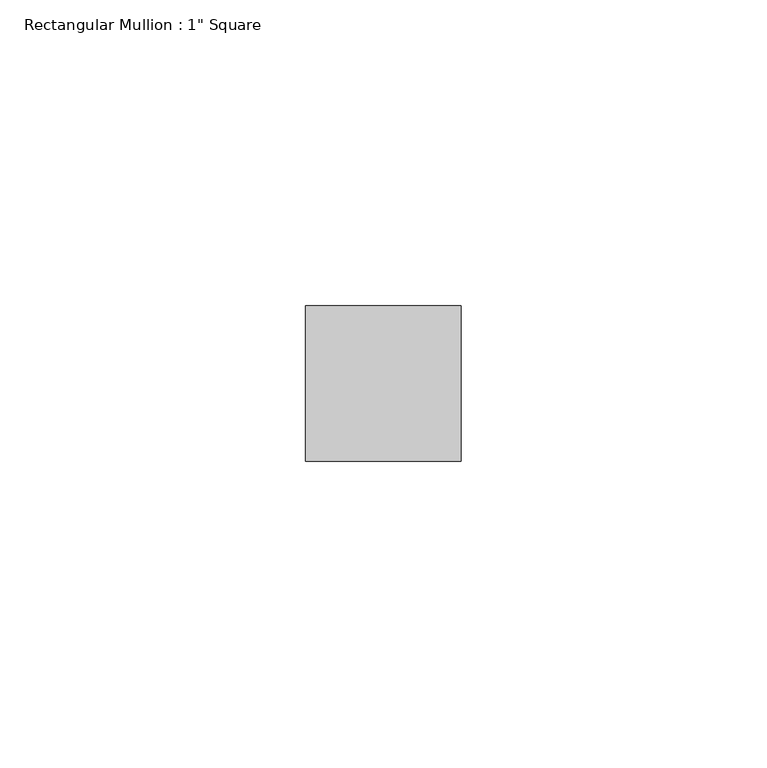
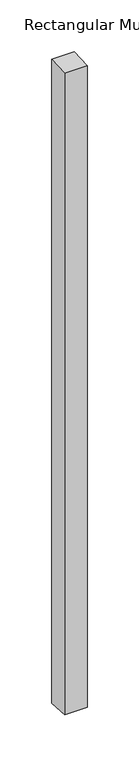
"""IFC4 building model written with IfcOpenShell, lengths in millimetres: member geometry."""

from ifc_helpers import new_model, si_unit, origin, place, context, project, spatial, faceted_brep, source, transform, mapped, element, save


def member_3534141e(model_context):
    return source(origin(), model_context, "Body", "Brep", [
        faceted_brep([(-25.4, 12.7, 0.6925379), (0.0, 12.7, 0.7476225), (0.0, 12.7, -763.0613074), (-25.4, 12.7, -762.9831106), (-25.4, -12.7, -0.8027071), (-25.4, -12.7, -760.8604958), (0.0, -12.7, -0.7476225), (0.0, -12.7, -760.9386926)], [[[0, 1, 2, 3]], [[4, 0, 3, 5]], [[6, 4, 5, 7]], [[1, 6, 7, 2]], [[1, 0, 4, 6]], [[2, 7, 5, 3]]]),
    ])


if __name__ == "__main__":
    model = new_model("IFC4")
    model_context = context("Model", 3, world=origin())
    ifc_project = project(units=[si_unit("LENGTHUNIT", "METRE", prefix="MILLI")], contexts=[model_context])
    site = spatial("IfcSite", under=ifc_project)
    building = spatial("IfcBuilding", under=site)
    placement = place(None, origin())
    member_shape = member_3534141e(model_context)
    element("IfcMember", 1, ObjectType="Rectangular Mullion : 1\" Square", at=placement, inside=building, context=model_context, shape_type="MappedRepresentation", body=[
        mapped(member_shape, transform((0.0, 0.0, 0.0), x_axis=(1.0, 0.0, 0.0), y_axis=(0.0, 1.0, 0.0), z_axis=(0.0, 0.0, 1.0))),
    ])
    save(model, "model.ifc")
